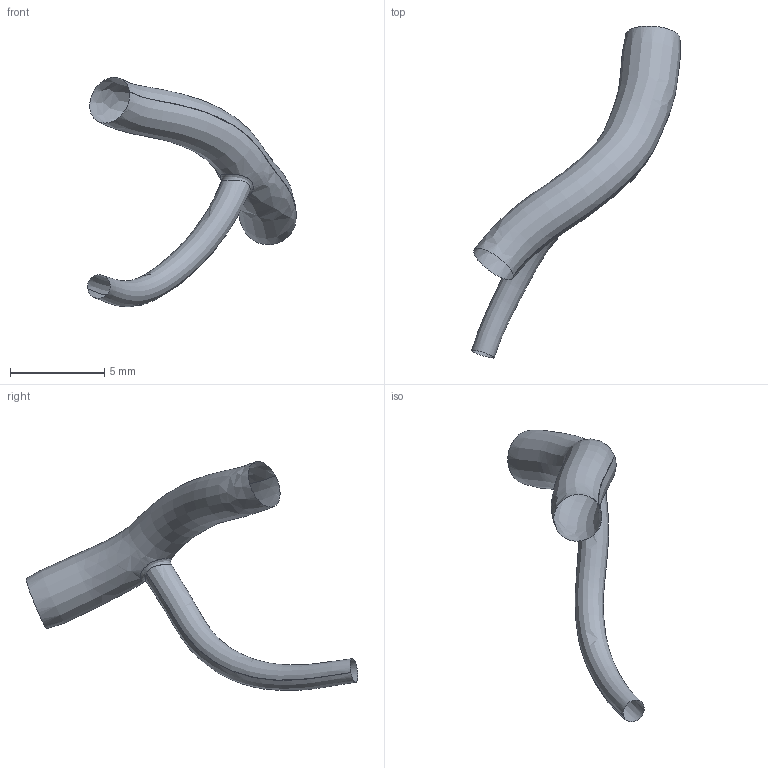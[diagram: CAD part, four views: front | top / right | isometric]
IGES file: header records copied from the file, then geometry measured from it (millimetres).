
Global section: file name: C:\Documents and Settings\Administrator\Desktop\FDA-Pig\Domestic LCA\Pig_000005\om.ed.igs; native system: Rhinoceros ( May 19 2006 ); preprocessor: Trout Lake IGES 012 May 19 2006; date: 111205.183427; units: centimetre
Bounding box: 11.1 x 17.63 x 12.18 mm (x, y, z)
Surface area: 217.3 mm2 (no closed solid volume)
Topology: 0 solids, 0 shells, 3 faces, 28 edges, 25 vertices
Faces by surface type: bspline 3
